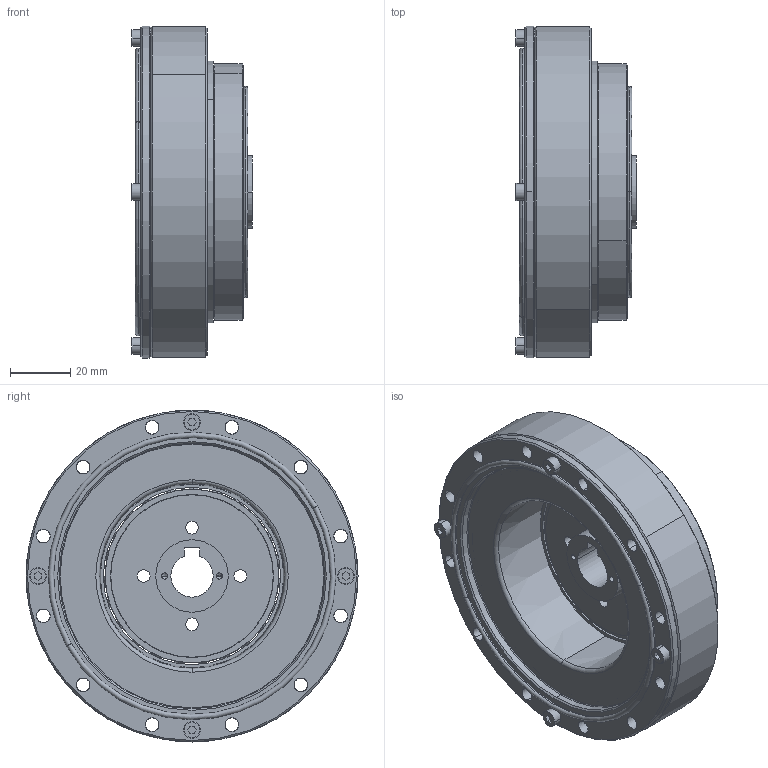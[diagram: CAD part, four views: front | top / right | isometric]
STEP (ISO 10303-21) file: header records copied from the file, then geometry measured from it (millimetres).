
FILE_DESCRIPTION (( 'STEP AP203' ), '1' );
FILE_NAME ('FHG-25-XXX-SJ.STEP', '2023-01-17T03:48:55', ( '微软用户' ), ( '微软中国' ), 'SwSTEP 2.0', 'SolidWorks 2016', '' );
FILE_SCHEMA (( 'CONFIG_CONTROL_DESIGN' ));
Length unit declared in the file: millimetre
Products named in the file (1): FHG-25-XXX-SJ
Bounding box: 40 x 110 x 110 mm (x, y, z)
Volume: 166599.4 mm3; surface area: 115418.3 mm2
Topology: 45 solids, 45 shells, 743 faces, 1821 edges, 1127 vertices
Faces by surface type: cylinder 329, plane 170, cone 126, torus 72, sphere 46
Entity records: 21187 total; most frequent: DIRECTION 4144, CARTESIAN_POINT 3456, ORIENTED_EDGE 3308, AXIS2_PLACEMENT_3D 1746, EDGE_CURVE 1654, VERTEX_POINT 1058, CIRCLE 1002, EDGE_LOOP 930
